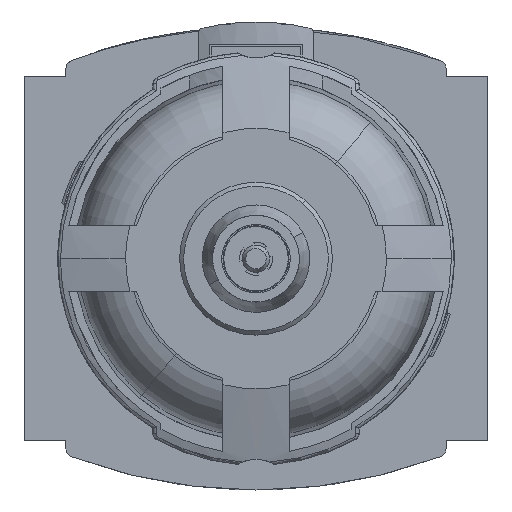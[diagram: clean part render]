
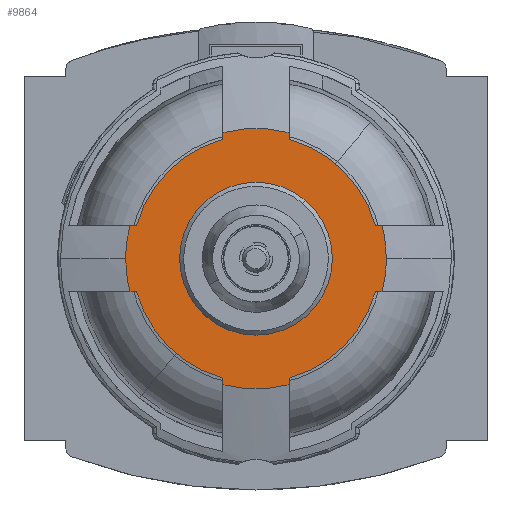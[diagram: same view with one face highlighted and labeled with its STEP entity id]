
A CAD part, front view. The second image highlights one B-rep face of the part: STEP entity #9864.
In plain terms, the highlighted planar face has unit normal (0, -1, 0).
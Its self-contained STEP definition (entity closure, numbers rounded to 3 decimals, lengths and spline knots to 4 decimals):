
#8642=FACE_BOUND('',#12931,.T.);
#8769=CIRCLE('',#29512,0.3642);
#8771=CIRCLE('',#29515,0.3642);
#8999=B_SPLINE_CURVE_WITH_KNOTS('',3,(#39567,#39568,#39569,#39570,#39571,
#39572),.UNSPECIFIED.,.F.,.F.,(4,2,4),(0.,0.5,1.),.UNSPECIFIED.);
#9000=B_SPLINE_CURVE_WITH_KNOTS('',3,(#39576,#39577,#39578,#39579),.UNSPECIFIED.,
.F.,.F.,(4,4),(0.,1.),.UNSPECIFIED.);
#9001=B_SPLINE_CURVE_WITH_KNOTS('',3,(#39583,#39584,#39585,#39586,#39587,
#39588),.UNSPECIFIED.,.F.,.F.,(4,2,4),(0.,0.5,1.),.UNSPECIFIED.);
#9002=B_SPLINE_CURVE_WITH_KNOTS('',3,(#39592,#39593,#39594,#39595),.UNSPECIFIED.,
.F.,.F.,(4,4),(0.,1.),.UNSPECIFIED.);
#9003=B_SPLINE_CURVE_WITH_KNOTS('',3,(#39597,#39598,#39599,#39600),.UNSPECIFIED.,
.F.,.F.,(4,4),(0.,1.),.UNSPECIFIED.);
#9004=B_SPLINE_CURVE_WITH_KNOTS('',3,(#39604,#39605,#39606,#39607,#39608,
#39609),.UNSPECIFIED.,.F.,.F.,(4,2,4),(0.,0.5,1.),.UNSPECIFIED.);
#9005=B_SPLINE_CURVE_WITH_KNOTS('',3,(#39613,#39614,#39615,#39616),.UNSPECIFIED.,
.F.,.F.,(4,4),(0.,1.),.UNSPECIFIED.);
#9006=B_SPLINE_CURVE_WITH_KNOTS('',3,(#39620,#39621,#39622,#39623,#39624,
#39625),.UNSPECIFIED.,.F.,.F.,(4,2,4),(0.,0.5,1.),.UNSPECIFIED.);
#9007=B_SPLINE_CURVE_WITH_KNOTS('',3,(#39629,#39630,#39631,#39632),.UNSPECIFIED.,
.F.,.F.,(4,4),(0.,1.),.UNSPECIFIED.);
#9008=B_SPLINE_CURVE_WITH_KNOTS('',3,(#39634,#39635,#39636,#39637),.UNSPECIFIED.,
.F.,.F.,(4,4),(0.,1.),.UNSPECIFIED.);
#9864=ADVANCED_FACE('',(#11738,#8642),#10978,.F.);
#10978=PLANE('',#29520);
#11738=FACE_OUTER_BOUND('',#12930,.T.);
#12930=EDGE_LOOP('',(#14858,#14859,#14860,#14861,#14862,#14863,#14864,#14865,
#14866,#14867,#14868,#14869,#14870,#14871,#14872,#14873,#14874,#14875));
#12931=EDGE_LOOP('',(#14876,#14877));
#14858=ORIENTED_EDGE('',*,*,#22836,.F.);
#14859=ORIENTED_EDGE('',*,*,#22837,.F.);
#14860=ORIENTED_EDGE('',*,*,#22838,.F.);
#14861=ORIENTED_EDGE('',*,*,#22839,.T.);
#14862=ORIENTED_EDGE('',*,*,#22840,.F.);
#14863=ORIENTED_EDGE('',*,*,#22841,.F.);
#14864=ORIENTED_EDGE('',*,*,#22842,.F.);
#14865=ORIENTED_EDGE('',*,*,#22843,.T.);
#14866=ORIENTED_EDGE('',*,*,#22844,.T.);
#14867=ORIENTED_EDGE('',*,*,#22845,.F.);
#14868=ORIENTED_EDGE('',*,*,#22846,.F.);
#14869=ORIENTED_EDGE('',*,*,#22847,.F.);
#14870=ORIENTED_EDGE('',*,*,#22848,.T.);
#14871=ORIENTED_EDGE('',*,*,#22849,.F.);
#14872=ORIENTED_EDGE('',*,*,#22850,.F.);
#14873=ORIENTED_EDGE('',*,*,#22851,.F.);
#14874=ORIENTED_EDGE('',*,*,#22852,.T.);
#14875=ORIENTED_EDGE('',*,*,#22853,.T.);
#14876=ORIENTED_EDGE('',*,*,#22832,.T.);
#14877=ORIENTED_EDGE('',*,*,#22828,.T.);
#20691=VERTEX_POINT('',#39549);
#20692=VERTEX_POINT('',#39550);
#20695=VERTEX_POINT('',#39565);
#20696=VERTEX_POINT('',#39566);
#20697=VERTEX_POINT('',#39573);
#20698=VERTEX_POINT('',#39575);
#20699=VERTEX_POINT('',#39580);
#20700=VERTEX_POINT('',#39582);
#20701=VERTEX_POINT('',#39589);
#20702=VERTEX_POINT('',#39591);
#20703=VERTEX_POINT('',#39596);
#20704=VERTEX_POINT('',#39601);
#20705=VERTEX_POINT('',#39603);
#20706=VERTEX_POINT('',#39610);
#20707=VERTEX_POINT('',#39612);
#20708=VERTEX_POINT('',#39617);
#20709=VERTEX_POINT('',#39619);
#20710=VERTEX_POINT('',#39626);
#20711=VERTEX_POINT('',#39628);
#20712=VERTEX_POINT('',#39633);
#22828=EDGE_CURVE('',#20691,#20692,#8769,.T.);
#22832=EDGE_CURVE('',#20692,#20691,#8771,.T.);
#22836=EDGE_CURVE('',#20695,#20696,#25647,.T.);
#22837=EDGE_CURVE('',#20697,#20695,#8999,.T.);
#22838=EDGE_CURVE('',#20698,#20697,#25648,.T.);
#22839=EDGE_CURVE('',#20698,#20699,#9000,.T.);
#22840=EDGE_CURVE('',#20700,#20699,#25649,.T.);
#22841=EDGE_CURVE('',#20701,#20700,#9001,.T.);
#22842=EDGE_CURVE('',#20702,#20701,#25650,.T.);
#22843=EDGE_CURVE('',#20702,#20703,#9002,.T.);
#22844=EDGE_CURVE('',#20703,#20704,#9003,.T.);
#22845=EDGE_CURVE('',#20705,#20704,#25651,.T.);
#22846=EDGE_CURVE('',#20706,#20705,#9004,.T.);
#22847=EDGE_CURVE('',#20707,#20706,#25652,.T.);
#22848=EDGE_CURVE('',#20707,#20708,#9005,.T.);
#22849=EDGE_CURVE('',#20709,#20708,#25653,.T.);
#22850=EDGE_CURVE('',#20710,#20709,#9006,.T.);
#22851=EDGE_CURVE('',#20711,#20710,#25654,.T.);
#22852=EDGE_CURVE('',#20711,#20712,#9007,.T.);
#22853=EDGE_CURVE('',#20712,#20696,#9008,.T.);
#25647=LINE('',#39564,#27576);
#25648=LINE('',#39574,#27577);
#25649=LINE('',#39581,#27578);
#25650=LINE('',#39590,#27579);
#25651=LINE('',#39602,#27580);
#25652=LINE('',#39611,#27581);
#25653=LINE('',#39618,#27582);
#25654=LINE('',#39627,#27583);
#27576=VECTOR('',#31390,1.);
#27577=VECTOR('',#31391,1.);
#27578=VECTOR('',#31392,1.);
#27579=VECTOR('',#31393,1.);
#27580=VECTOR('',#31394,1.);
#27581=VECTOR('',#31395,1.);
#27582=VECTOR('',#31396,1.);
#27583=VECTOR('',#31397,1.);
#29512=AXIS2_PLACEMENT_3D('',#39548,#31370,#31371);
#29515=AXIS2_PLACEMENT_3D('',#39557,#31378,#31379);
#29520=AXIS2_PLACEMENT_3D('',#39638,#31398,#31399);
#31370=DIRECTION('',(0.,1.,0.));
#31371=DIRECTION('',(0.,0.,1.));
#31378=DIRECTION('',(0.,1.,0.));
#31379=DIRECTION('',(0.,0.,1.));
#31390=DIRECTION('',(1.,0.,0.));
#31391=DIRECTION('',(0.,0.,-1.));
#31392=DIRECTION('',(0.,0.,1.));
#31393=DIRECTION('',(1.,0.,0.));
#31394=DIRECTION('',(-1.,0.,0.));
#31395=DIRECTION('',(0.,0.,1.));
#31396=DIRECTION('',(0.,0.,-1.));
#31397=DIRECTION('',(-1.,0.,0.));
#31398=DIRECTION('',(0.,1.,0.));
#31399=DIRECTION('',(0.,0.,1.));
#39548=CARTESIAN_POINT('',(0.,-2.7992,0.));
#39549=CARTESIAN_POINT('',(-0.2341,-2.7992,-0.279));
#39550=CARTESIAN_POINT('',(0.2341,-2.7992,0.279));
#39557=CARTESIAN_POINT('',(0.,-2.7992,0.));
#39564=CARTESIAN_POINT('',(0.,-2.7992,0.1575));
#39565=CARTESIAN_POINT('',(0.5692,-2.7992,0.1575));
#39566=CARTESIAN_POINT('',(0.6006,-2.7992,0.1575));
#39567=CARTESIAN_POINT('',(0.1575,-2.7992,0.5692));
#39568=CARTESIAN_POINT('',(0.2553,-2.7992,0.5421));
#39569=CARTESIAN_POINT('',(0.3458,-2.7992,0.4893));
#39570=CARTESIAN_POINT('',(0.4893,-2.7992,0.3458));
#39571=CARTESIAN_POINT('',(0.5421,-2.7992,0.2553));
#39572=CARTESIAN_POINT('',(0.5692,-2.7992,0.1575));
#39573=CARTESIAN_POINT('',(0.1575,-2.7992,0.5692));
#39574=CARTESIAN_POINT('',(0.1575,-2.7992,0.));
#39575=CARTESIAN_POINT('',(0.1575,-2.7992,0.6006));
#39576=CARTESIAN_POINT('',(0.1575,-2.7992,0.6006));
#39577=CARTESIAN_POINT('',(0.0545,-2.7992,0.6276));
#39578=CARTESIAN_POINT('',(-0.0546,-2.7992,0.6276));
#39579=CARTESIAN_POINT('',(-0.1575,-2.7992,0.6006));
#39580=CARTESIAN_POINT('',(-0.1575,-2.7992,0.6006));
#39581=CARTESIAN_POINT('',(-0.1575,-2.7992,0.));
#39582=CARTESIAN_POINT('',(-0.1575,-2.7992,0.5692));
#39583=CARTESIAN_POINT('',(-0.5692,-2.7992,0.1575));
#39584=CARTESIAN_POINT('',(-0.5421,-2.7992,0.2553));
#39585=CARTESIAN_POINT('',(-0.4893,-2.7992,0.3458));
#39586=CARTESIAN_POINT('',(-0.3458,-2.7992,0.4893));
#39587=CARTESIAN_POINT('',(-0.2553,-2.7992,0.5421));
#39588=CARTESIAN_POINT('',(-0.1575,-2.7992,0.5692));
#39589=CARTESIAN_POINT('',(-0.5692,-2.7992,0.1575));
#39590=CARTESIAN_POINT('',(0.,-2.7992,0.1575));
#39591=CARTESIAN_POINT('',(-0.6006,-2.7992,0.1575));
#39592=CARTESIAN_POINT('',(-0.6006,-2.7992,0.1575));
#39593=CARTESIAN_POINT('',(-0.6141,-2.7992,0.106));
#39594=CARTESIAN_POINT('',(-0.6209,-2.7992,0.0532));
#39595=CARTESIAN_POINT('',(-0.6209,-2.7992,0.));
#39596=CARTESIAN_POINT('',(-0.6209,-2.7992,0.));
#39597=CARTESIAN_POINT('',(-0.6209,-2.7992,0.));
#39598=CARTESIAN_POINT('',(-0.6209,-2.7992,-0.0532));
#39599=CARTESIAN_POINT('',(-0.6141,-2.7992,-0.106));
#39600=CARTESIAN_POINT('',(-0.6006,-2.7992,-0.1575));
#39601=CARTESIAN_POINT('',(-0.6006,-2.7992,-0.1575));
#39602=CARTESIAN_POINT('',(0.,-2.7992,-0.1575));
#39603=CARTESIAN_POINT('',(-0.5692,-2.7992,-0.1575));
#39604=CARTESIAN_POINT('',(-0.1575,-2.7992,-0.5692));
#39605=CARTESIAN_POINT('',(-0.2553,-2.7992,-0.5421));
#39606=CARTESIAN_POINT('',(-0.3458,-2.7992,-0.4893));
#39607=CARTESIAN_POINT('',(-0.4893,-2.7992,-0.3458));
#39608=CARTESIAN_POINT('',(-0.5421,-2.7992,-0.2553));
#39609=CARTESIAN_POINT('',(-0.5692,-2.7992,-0.1575));
#39610=CARTESIAN_POINT('',(-0.1575,-2.7992,-0.5692));
#39611=CARTESIAN_POINT('',(-0.1575,-2.7992,0.));
#39612=CARTESIAN_POINT('',(-0.1575,-2.7992,-0.6006));
#39613=CARTESIAN_POINT('',(-0.1575,-2.7992,-0.6006));
#39614=CARTESIAN_POINT('',(-0.0545,-2.7992,-0.6276));
#39615=CARTESIAN_POINT('',(0.0546,-2.7992,-0.6276));
#39616=CARTESIAN_POINT('',(0.1575,-2.7992,-0.6006));
#39617=CARTESIAN_POINT('',(0.1575,-2.7992,-0.6006));
#39618=CARTESIAN_POINT('',(0.1575,-2.7992,0.));
#39619=CARTESIAN_POINT('',(0.1575,-2.7992,-0.5692));
#39620=CARTESIAN_POINT('',(0.5692,-2.7992,-0.1575));
#39621=CARTESIAN_POINT('',(0.5421,-2.7992,-0.2553));
#39622=CARTESIAN_POINT('',(0.4893,-2.7992,-0.3458));
#39623=CARTESIAN_POINT('',(0.3458,-2.7992,-0.4893));
#39624=CARTESIAN_POINT('',(0.2553,-2.7992,-0.5421));
#39625=CARTESIAN_POINT('',(0.1575,-2.7992,-0.5692));
#39626=CARTESIAN_POINT('',(0.5692,-2.7992,-0.1575));
#39627=CARTESIAN_POINT('',(0.,-2.7992,-0.1575));
#39628=CARTESIAN_POINT('',(0.6006,-2.7992,-0.1575));
#39629=CARTESIAN_POINT('',(0.6006,-2.7992,-0.1575));
#39630=CARTESIAN_POINT('',(0.6141,-2.7992,-0.106));
#39631=CARTESIAN_POINT('',(0.6209,-2.7992,-0.0532));
#39632=CARTESIAN_POINT('',(0.6209,-2.7992,0.));
#39633=CARTESIAN_POINT('',(0.6209,-2.7992,0.));
#39634=CARTESIAN_POINT('',(0.6209,-2.7992,0.));
#39635=CARTESIAN_POINT('',(0.6209,-2.7992,0.0532));
#39636=CARTESIAN_POINT('',(0.6141,-2.7992,0.106));
#39637=CARTESIAN_POINT('',(0.6006,-2.7992,0.1575));
#39638=CARTESIAN_POINT('',(-0.6283,-2.7992,-0.6283));
